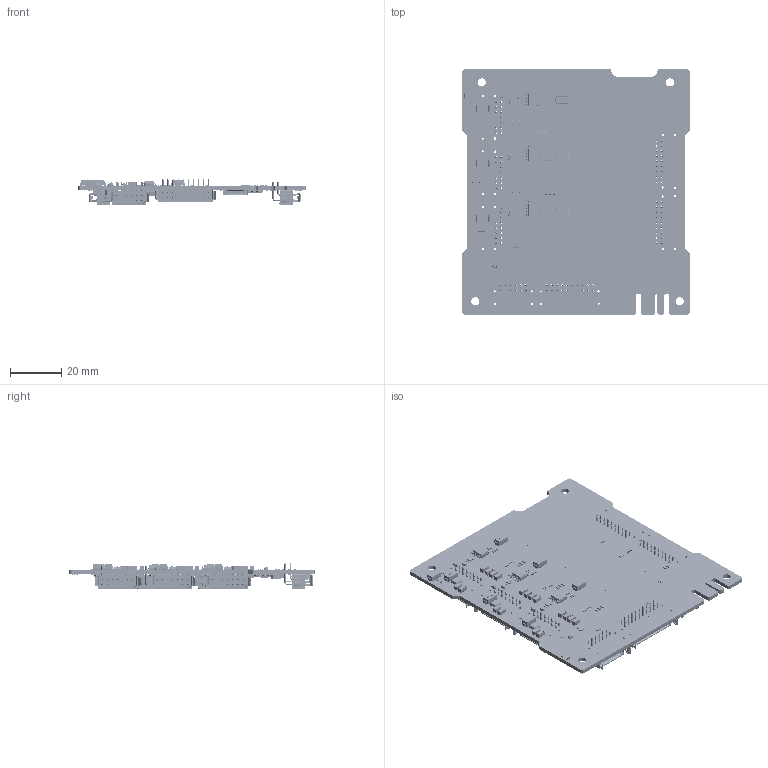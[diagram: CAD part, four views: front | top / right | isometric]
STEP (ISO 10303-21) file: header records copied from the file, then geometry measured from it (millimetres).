
FILE_DESCRIPTION((''),'2;1');
FILE_NAME('IMEPSV2_BU_V061_SW0002','2020-04-01T',('sjay'),(''),'PRO/ENGINEER BY PARAMETRIC TECHNOLOGY CORPORATION, 2015110','PRO/ENGINEER BY PARAMETRIC TECHNOLOGY CORPORATION, 2015110','');
FILE_SCHEMA(('CONFIG_CONTROL_DESIGN'));
Products named in the file (1): IMEPSV2_BU_V061_SW0002
Bounding box: 89 x 96 x 10.05 mm (x, y, z)
Volume: 16704.2 mm3; surface area: 28581.8 mm2
Topology: 1 solids, 1 shells, 16187 faces, 49914 edges, 33052 vertices
Faces by surface type: plane 9029, cylinder 4958, revolution 880, cone 824, extrusion 268, torus 220, sphere 8
Entity records: 587986 total; most frequent: CARTESIAN_POINT 128153, ORIENTED_EDGE 99708, DIRECTION 93473, EDGE_CURVE 49854, VECTOR 34943, LINE 34675, VERTEX_POINT 33052, AXIS2_PLACEMENT_3D 28825
